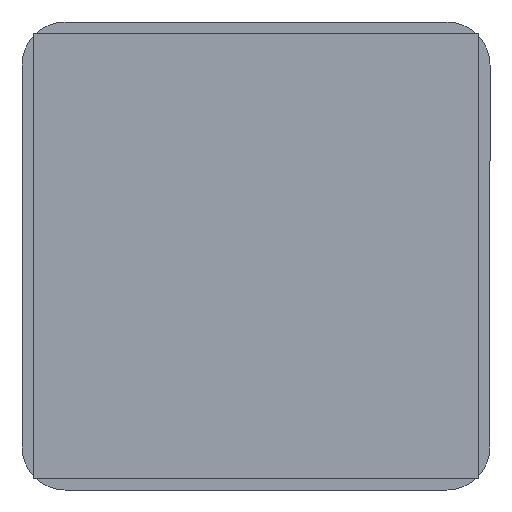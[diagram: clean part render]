
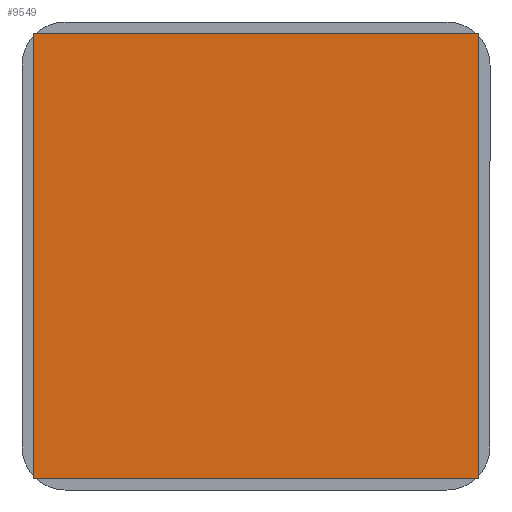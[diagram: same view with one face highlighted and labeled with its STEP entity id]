
A CAD part, front view. The second image highlights one B-rep face of the part: STEP entity #9549.
In plain terms, the highlighted planar face has unit normal (0, -1, 0).
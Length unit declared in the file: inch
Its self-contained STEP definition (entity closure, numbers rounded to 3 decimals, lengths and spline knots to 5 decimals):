
#1347 = DIRECTION ( 'NONE',  ( -1., 0., 0. ) ) ;
#1387 = DIRECTION ( 'NONE',  ( 1., 0., 0. ) ) ;
#1422 = EDGE_LOOP ( 'NONE', ( #9056, #2685, #4873, #7714 ) ) ;
#1570 = CARTESIAN_POINT ( 'NONE',  ( 0.61024, -0.005, -0.61024 ) ) ;
#1606 = EDGE_CURVE ( 'NONE', #5799, #9230, #2995, .T. ) ;
#1663 = EDGE_CURVE ( 'NONE', #7035, #5799, #10902, .T. ) ;
#1675 = CARTESIAN_POINT ( 'NONE',  ( 0.61024, -0.005, 0.61024 ) ) ;
#2187 = CARTESIAN_POINT ( 'NONE',  ( -0.61024, -0.005, -0.61024 ) ) ;
#2449 = DIRECTION ( 'NONE',  ( 0., 0., -1. ) ) ;
#2471 = CARTESIAN_POINT ( 'NONE',  ( -0.61024, -0.005, 0.61024 ) ) ;
#2685 = ORIENTED_EDGE ( 'NONE', *, *, #1606, .F. ) ;
#2718 = CARTESIAN_POINT ( 'NONE',  ( -0.61024, -0.005, -0.61024 ) ) ;
#2995 = LINE ( 'NONE', #2187, #3642 ) ;
#3491 = DIRECTION ( 'NONE',  ( 0., 0., 1. ) ) ;
#3642 = VECTOR ( 'NONE', #1347, 39.37008 ) ;
#3644 = VERTEX_POINT ( 'NONE', #7582 ) ;
#4705 = VECTOR ( 'NONE', #2449, 39.37008 ) ;
#4873 = ORIENTED_EDGE ( 'NONE', *, *, #1663, .F. ) ;
#5799 = VERTEX_POINT ( 'NONE', #10900 ) ;
#6016 = FACE_OUTER_BOUND ( 'NONE', #1422, .T. ) ;
#6871 = LINE ( 'NONE', #2718, #9415 ) ;
#7035 = VERTEX_POINT ( 'NONE', #1675 ) ;
#7253 = VECTOR ( 'NONE', #1387, 39.37008 ) ;
#7582 = CARTESIAN_POINT ( 'NONE',  ( -0.61024, -0.005, 0.61024 ) ) ;
#7714 = ORIENTED_EDGE ( 'NONE', *, *, #10121, .F. ) ;
#7913 = CARTESIAN_POINT ( 'NONE',  ( -0.61024, -0.005, 0.61024 ) ) ;
#9043 = DIRECTION ( 'NONE',  ( 0., 0., 1. ) ) ;
#9056 = ORIENTED_EDGE ( 'NONE', *, *, #9444, .F. ) ;
#9230 = VERTEX_POINT ( 'NONE', #9707 ) ;
#9415 = VECTOR ( 'NONE', #3491, 39.37008 ) ;
#9444 = EDGE_CURVE ( 'NONE', #9230, #3644, #6871, .T. ) ;
#9549 = ADVANCED_FACE ( 'NONE', ( #6016 ), #10929, .F. ) ;
#9707 = CARTESIAN_POINT ( 'NONE',  ( -0.61024, -0.005, -0.61024 ) ) ;
#10108 = DIRECTION ( 'NONE',  ( 0., 1., 0. ) ) ;
#10121 = EDGE_CURVE ( 'NONE', #3644, #7035, #10500, .T. ) ;
#10446 = AXIS2_PLACEMENT_3D ( 'NONE', #2471, #10108, #9043 ) ;
#10500 = LINE ( 'NONE', #7913, #7253 ) ;
#10900 = CARTESIAN_POINT ( 'NONE',  ( 0.61024, -0.005, -0.61024 ) ) ;
#10902 = LINE ( 'NONE', #1570, #4705 ) ;
#10929 = PLANE ( 'NONE',  #10446 ) ;
